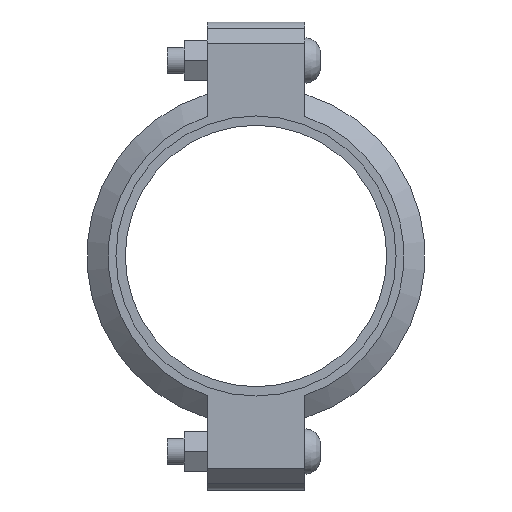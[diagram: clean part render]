
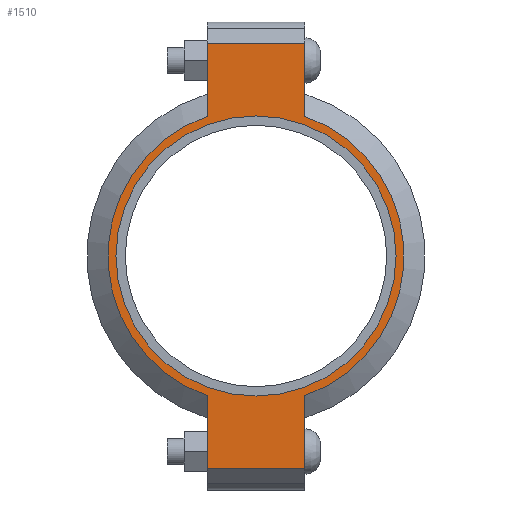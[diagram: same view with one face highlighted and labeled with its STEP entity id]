
A CAD part, left-side view. The second image highlights one B-rep face of the part: STEP entity #1510.
In plain terms, the highlighted planar face has unit normal (-1, 0, 0) as drawn and (0, 0, 1) by its records, which use the part's own axes.
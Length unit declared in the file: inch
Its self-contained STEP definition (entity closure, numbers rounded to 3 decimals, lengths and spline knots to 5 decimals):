
#134=LINE('',#2626,#227);
#142=LINE('',#2662,#235);
#149=LINE('',#2683,#242);
#158=LINE('',#2715,#251);
#159=LINE('',#2719,#252);
#160=LINE('',#2721,#253);
#227=VECTOR('',#2146,0.3937);
#235=VECTOR('',#2162,0.3937);
#242=VECTOR('',#2181,0.3937);
#251=VECTOR('',#2206,0.3937);
#252=VECTOR('',#2211,0.3937);
#253=VECTOR('',#2212,0.3937);
#309=FACE_BOUND('',#487,.T.);
#381=FACE_OUTER_BOUND('',#486,.T.);
#486=EDGE_LOOP('',(#1251,#1252,#1253,#1254,#1255,#1256,#1257,#1258));
#487=EDGE_LOOP('',(#1259));
#559=CIRCLE('',#1720,3.3125);
#585=CIRCLE('',#1779,3.5);
#586=CIRCLE('',#1780,3.5);
#651=VERTEX_POINT('',#2442);
#694=VERTEX_POINT('',#2623);
#695=VERTEX_POINT('',#2625);
#706=VERTEX_POINT('',#2657);
#707=VERTEX_POINT('',#2661);
#714=VERTEX_POINT('',#2680);
#715=VERTEX_POINT('',#2682);
#725=VERTEX_POINT('',#2718);
#726=VERTEX_POINT('',#2720);
#807=EDGE_CURVE('',#651,#651,#559,.T.);
#868=EDGE_CURVE('',#695,#694,#134,.T.);
#882=EDGE_CURVE('',#707,#706,#142,.T.);
#892=EDGE_CURVE('',#715,#714,#149,.T.);
#907=EDGE_CURVE('',#707,#694,#158,.T.);
#908=EDGE_CURVE('',#706,#715,#585,.T.);
#909=EDGE_CURVE('',#725,#714,#159,.T.);
#910=EDGE_CURVE('',#725,#726,#160,.T.);
#911=EDGE_CURVE('',#726,#695,#586,.T.);
#1251=ORIENTED_EDGE('',*,*,#907,.F.);
#1252=ORIENTED_EDGE('',*,*,#882,.T.);
#1253=ORIENTED_EDGE('',*,*,#908,.T.);
#1254=ORIENTED_EDGE('',*,*,#892,.T.);
#1255=ORIENTED_EDGE('',*,*,#909,.F.);
#1256=ORIENTED_EDGE('',*,*,#910,.T.);
#1257=ORIENTED_EDGE('',*,*,#911,.T.);
#1258=ORIENTED_EDGE('',*,*,#868,.T.);
#1259=ORIENTED_EDGE('',*,*,#807,.T.);
#1352=PLANE('',#1778);
#1510=ADVANCED_FACE('',(#381,#309),#1352,.T.);
#1720=AXIS2_PLACEMENT_3D('',#2444,#2022,#2023);
#1778=AXIS2_PLACEMENT_3D('',#2716,#2207,#2208);
#1779=AXIS2_PLACEMENT_3D('',#2717,#2209,#2210);
#1780=AXIS2_PLACEMENT_3D('',#2722,#2213,#2214);
#2022=DIRECTION('center_axis',(0.,0.,-1.));
#2023=DIRECTION('ref_axis',(-1.,0.,0.));
#2146=DIRECTION('',(-1.,0.,0.));
#2162=DIRECTION('',(1.,0.,0.));
#2181=DIRECTION('',(1.,0.,0.));
#2206=DIRECTION('',(0.,1.,0.));
#2207=DIRECTION('center_axis',(0.,0.,1.));
#2208=DIRECTION('ref_axis',(1.,0.,0.));
#2209=DIRECTION('center_axis',(0.,0.,1.));
#2210=DIRECTION('ref_axis',(-1.,0.,0.));
#2211=DIRECTION('',(0.,-1.,0.));
#2212=DIRECTION('',(-1.,0.,0.));
#2213=DIRECTION('center_axis',(0.,0.,1.));
#2214=DIRECTION('ref_axis',(-1.,0.,0.));
#2442=CARTESIAN_POINT('',(3.3125,0.,1.065));
#2444=CARTESIAN_POINT('Origin',(0.,0.,1.065));
#2623=CARTESIAN_POINT('',(-5.035,1.156,1.065));
#2625=CARTESIAN_POINT('',(-3.30358,1.156,1.065));
#2626=CARTESIAN_POINT('',(-5.535,1.156,1.065));
#2657=CARTESIAN_POINT('',(-3.30358,-1.156,1.065));
#2661=CARTESIAN_POINT('',(-5.035,-1.156,1.065));
#2662=CARTESIAN_POINT('',(5.535,-1.156,1.065));
#2680=CARTESIAN_POINT('',(5.035,-1.156,1.065));
#2682=CARTESIAN_POINT('',(3.30358,-1.156,1.065));
#2683=CARTESIAN_POINT('',(5.535,-1.156,1.065));
#2715=CARTESIAN_POINT('',(-5.035,0.578,1.065));
#2716=CARTESIAN_POINT('Origin',(0.,0.,1.065));
#2717=CARTESIAN_POINT('Origin',(0.,0.,1.065));
#2718=CARTESIAN_POINT('',(5.035,1.156,1.065));
#2719=CARTESIAN_POINT('',(5.035,-0.578,1.065));
#2720=CARTESIAN_POINT('',(3.30358,1.156,1.065));
#2721=CARTESIAN_POINT('',(-5.535,1.156,1.065));
#2722=CARTESIAN_POINT('Origin',(0.,0.,1.065));
